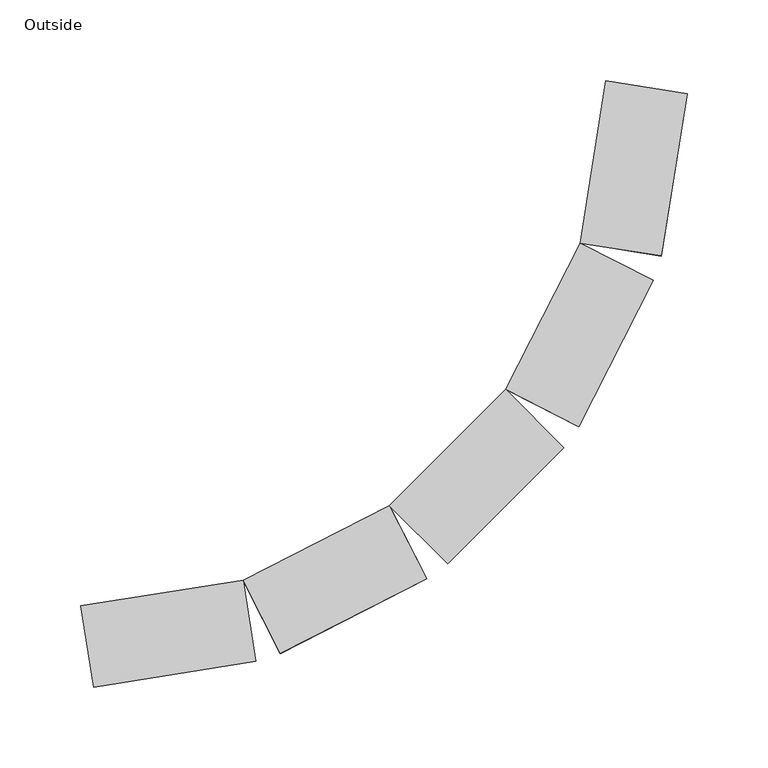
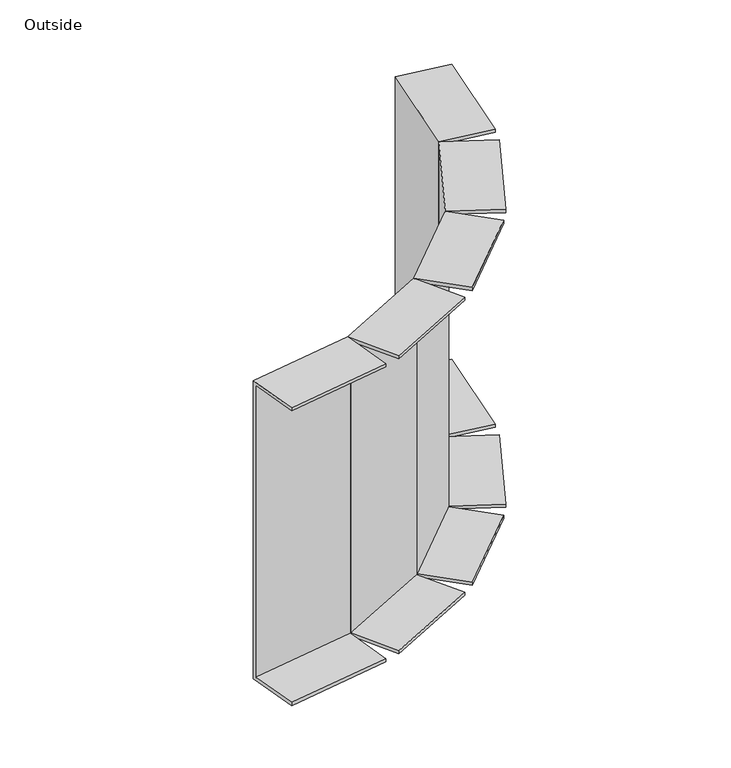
"""IFC4 building model written with IfcOpenShell, lengths in millimetres: cable carrier fitting geometry, Bend-Vertical-Cablofil-Wire_Mesh_Cable_Tray-Cablobend : Outside."""

from ifc_helpers import new_model, si_unit, frame, origin, place, context, project, spatial, polyline, outline, extrude, source, transform, mapped, element, save


def outside_15df26a3(model_context):
    return source(origin(), model_context, "Body", "SweptSolid", [
        extrude(outline(polyline([(-50.8, 0.0), (0.0, 0.0), (0.0, -304.8), (-50.8, -304.8), (-50.8, -301.625), (-3.175, -301.625), (-3.175, -3.175), (-50.8, -3.175), (-50.8, 0.0)])), frame((-159.2612254, 87.4191764, 152.4), z_axis=(0.7071067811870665, 0.7071067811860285, 0.0), x_axis=(-0.7071067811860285, 0.7071067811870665, 0.0)), (0.0, 0.0, 1.0), 101.6),
        extrude(outline(polyline([(-50.8, 0.0), (0.0, 0.0), (0.0, -304.8), (-50.8, -304.8), (-50.8, -301.625), (-3.175, -301.625), (-3.175, -3.175), (-50.8, -3.175), (-50.8, 0.0)])), frame((-350.1366237, 25.4, 152.4), z_axis=(0.9876883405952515, 0.15643446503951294, 0.0), x_axis=(-0.15643446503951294, 0.9876883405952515, 0.0)), (0.0, 0.0, 1.0), 101.6),
        extrude(outline(polyline([(-50.8, 0.0), (0.0, 0.0), (0.0, -304.8), (-50.8, -304.8), (-50.8, -301.625), (-3.1749999, -301.625), (-3.1749999, -3.175), (-50.8, -3.175), (-50.8, 0.0)])), frame((-41.2937416, 249.7874882, 152.4), z_axis=(0.15643446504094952, 0.9876883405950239, 0.0), x_axis=(-0.9876883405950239, 0.15643446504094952, 0.0)), (0.0, 0.0, 1.0), 101.6),
        extrude(outline(polyline([(-50.7999999, 0.0), (0.0, 0.0), (0.0, -304.8), (-50.7999999, -304.8), (-50.7999999, -301.625), (-3.175, -301.625), (-3.175, -3.175), (-50.7999999, -3.175), (-50.7999999, 0.0)])), frame((-249.7874882, 41.2937416, 152.4), z_axis=(0.8910065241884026, 0.45399049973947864, 0.0), x_axis=(-0.45399049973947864, 0.8910065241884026, 0.0)), (0.0, 0.0, 1.0), 101.6),
        extrude(outline(polyline([(-50.8, 0.0), (0.0, 0.0), (0.0, -304.8), (-50.8, -304.8), (-50.8, -301.625), (-3.175, -301.625), (-3.175, -3.175), (-50.8, -3.175), (-50.8, 0.0)])), frame((-87.4191764, 159.2612254, 152.4), z_axis=(0.4539904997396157, 0.8910065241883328, 0.0), x_axis=(-0.8910065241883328, 0.4539904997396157, 0.0)), (0.0, 0.0, 1.0), 101.6),
    ])


if __name__ == "__main__":
    model = new_model("IFC4")
    model_context = context("Model", 3, world=origin())
    ifc_project = project(units=[si_unit("LENGTHUNIT", "METRE", prefix="MILLI")], contexts=[model_context])
    site = spatial("IfcSite", under=ifc_project)
    building = spatial("IfcBuilding", under=site)
    placement = place(None, origin())
    outside_shape = outside_15df26a3(model_context)
    element("IfcCableCarrierFitting", 1, ObjectType="Bend-Vertical-Cablofil-Wire_Mesh_Cable_Tray-Cablobend : Outside", at=placement, inside=building, context=model_context, shape_type="MappedRepresentation", body=[
        mapped(outside_shape, transform((0.0, 0.0, 0.0), x_axis=(1.0, 0.0, 0.0), y_axis=(0.0, 1.0, 0.0), z_axis=(0.0, 0.0, 1.0))),
    ])
    save(model, "model.ifc")
